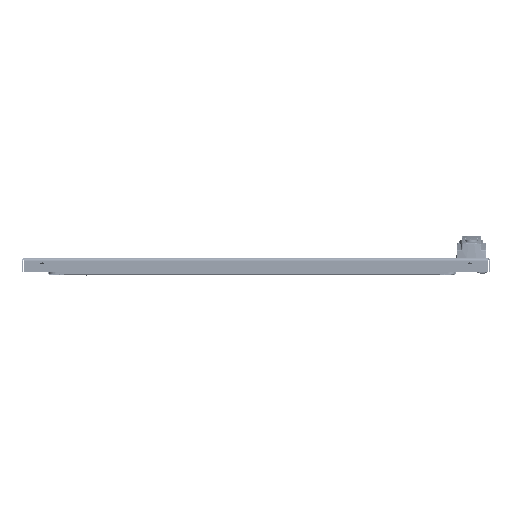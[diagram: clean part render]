
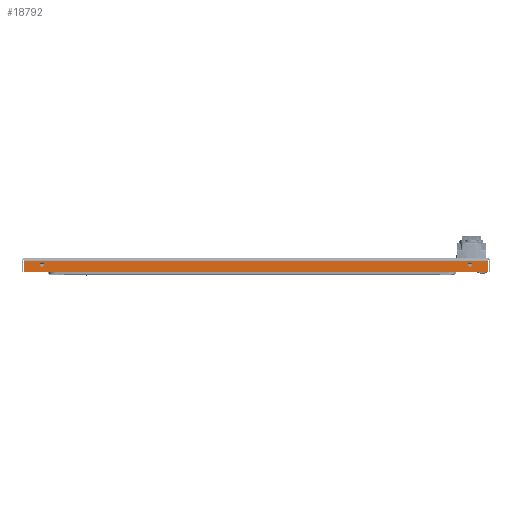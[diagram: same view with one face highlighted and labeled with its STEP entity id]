
A CAD part, front view. The second image highlights one B-rep face of the part: STEP entity #18792.
In plain terms, the highlighted planar face has unit normal (0, -1, 0).
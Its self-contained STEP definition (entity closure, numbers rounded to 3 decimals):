
#11150 = CARTESIAN_POINT ( 'NONE',  ( 11.574, -38.169, -0.063 ) ) ;
#11231 = CARTESIAN_POINT ( 'NONE',  ( -11.573, -38.169, -0.063 ) ) ;
#11501 = CARTESIAN_POINT ( 'NONE',  ( -11.573, -38.169, -0.634 ) ) ;
#12609 = VERTEX_POINT ( 'NONE', #73004 ) ;
#12611 = VERTEX_POINT ( 'NONE', #73002 ) ;
#12647 = VERTEX_POINT ( 'NONE', #72939 ) ;
#12650 = VERTEX_POINT ( 'NONE', #72933 ) ;
#13046 = CARTESIAN_POINT ( 'NONE',  ( 11.574, -38.169, -0.634 ) ) ;
#13663 = AXIS2_PLACEMENT_3D ( 'NONE', #17708, #17684, #17683 ) ;
#13665 = AXIS2_PLACEMENT_3D ( 'NONE', #18258, #18216, #18215 ) ;
#13692 = AXIS2_PLACEMENT_3D ( 'NONE', #20650, #20646, #20644 ) ;
#13693 = AXIS2_PLACEMENT_3D ( 'NONE', #20671, #20662, #20660 ) ;
#17683 = DIRECTION ( 'NONE',  ( 0., 0., -1. ) ) ;
#17684 = DIRECTION ( 'NONE',  ( 0., -1., 0. ) ) ;
#17708 = CARTESIAN_POINT ( 'NONE',  ( -10.649, -38.169, -0.259 ) ) ;
#17731 = DIRECTION ( 'NONE',  ( 0., 0., -1. ) ) ;
#17747 = CARTESIAN_POINT ( 'NONE',  ( 11.574, -38.169, -0.063 ) ) ;
#17801 = DIRECTION ( 'NONE',  ( 0., 0., -1. ) ) ;
#17820 = DIRECTION ( 'NONE',  ( -1., 0., 0. ) ) ;
#17821 = CARTESIAN_POINT ( 'NONE',  ( 11.689, -38.169, -0.634 ) ) ;
#17823 = CARTESIAN_POINT ( 'NONE',  ( -11.573, -38.169, -0.063 ) ) ;
#17868 = DIRECTION ( 'NONE',  ( 1., 0., 0. ) ) ;
#17874 = CARTESIAN_POINT ( 'NONE',  ( 11.689, -38.169, -0.063 ) ) ;
#18215 = DIRECTION ( 'NONE',  ( 0., 0., -1. ) ) ;
#18216 = DIRECTION ( 'NONE',  ( 0., -1., 0. ) ) ;
#18258 = CARTESIAN_POINT ( 'NONE',  ( 10.649, -38.169, -0.259 ) ) ;
#18792 = ADVANCED_FACE ( 'NONE', ( #66447, #66455, #66442 ), #72147, .F. ) ;
#20644 = DIRECTION ( 'NONE',  ( 0., 0., -1. ) ) ;
#20646 = DIRECTION ( 'NONE',  ( 0., -1., 0. ) ) ;
#20650 = CARTESIAN_POINT ( 'NONE',  ( -10.649, -38.169, -0.259 ) ) ;
#20660 = DIRECTION ( 'NONE',  ( 0., 0., -1. ) ) ;
#20662 = DIRECTION ( 'NONE',  ( 0., -1., 0. ) ) ;
#20671 = CARTESIAN_POINT ( 'NONE',  ( 10.649, -38.169, -0.259 ) ) ;
#36072 = CIRCLE ( 'NONE', #13692, 0.109 ) ;
#36078 = CIRCLE ( 'NONE', #13693, 0.109 ) ;
#56932 = EDGE_LOOP ( 'NONE', ( #71166, #71167 ) ) ;
#56953 = EDGE_LOOP ( 'NONE', ( #71168, #71169 ) ) ;
#56957 = EDGE_LOOP ( 'NONE', ( #71170, #71171, #71172, #71173 ) ) ;
#66442 = FACE_OUTER_BOUND ( 'NONE', #56957, .T. ) ;
#66447 = FACE_BOUND ( 'NONE', #56932, .T. ) ;
#66455 = FACE_BOUND ( 'NONE', #56953, .T. ) ;
#70095 = AXIS2_PLACEMENT_3D ( 'NONE', #72148, #72144, #72143 ) ;
#71166 = ORIENTED_EDGE ( 'NONE', *, *, #109608, .F. ) ;
#71167 = ORIENTED_EDGE ( 'NONE', *, *, #109469, .F. ) ;
#71168 = ORIENTED_EDGE ( 'NONE', *, *, #109654, .F. ) ;
#71169 = ORIENTED_EDGE ( 'NONE', *, *, #109471, .F. ) ;
#71170 = ORIENTED_EDGE ( 'NONE', *, *, #109629, .F. ) ;
#71171 = ORIENTED_EDGE ( 'NONE', *, *, #109636, .T. ) ;
#71172 = ORIENTED_EDGE ( 'NONE', *, *, #109634, .F. ) ;
#71173 = ORIENTED_EDGE ( 'NONE', *, *, #109650, .F. ) ;
#72143 = DIRECTION ( 'NONE',  ( 0., 0., 1. ) ) ;
#72144 = DIRECTION ( 'NONE',  ( 0., 1., 0. ) ) ;
#72147 = PLANE ( 'NONE',  #70095 ) ;
#72148 = CARTESIAN_POINT ( 'NONE',  ( 11.689, -38.169, -0.634 ) ) ;
#72933 = CARTESIAN_POINT ( 'NONE',  ( -10.649, -38.169, -0.15 ) ) ;
#72939 = CARTESIAN_POINT ( 'NONE',  ( -10.649, -38.169, -0.369 ) ) ;
#73002 = CARTESIAN_POINT ( 'NONE',  ( 10.649, -38.169, -0.15 ) ) ;
#73004 = CARTESIAN_POINT ( 'NONE',  ( 10.649, -38.169, -0.369 ) ) ;
#78397 = CIRCLE ( 'NONE', #13663, 0.109 ) ;
#78447 = VECTOR ( 'NONE', #17731, 39.37 ) ;
#78518 = LINE ( 'NONE', #17747, #78447 ) ;
#78548 = VECTOR ( 'NONE', #17801, 39.37 ) ;
#78552 = VECTOR ( 'NONE', #17820, 39.37 ) ;
#78562 = LINE ( 'NONE', #17823, #78548 ) ;
#78582 = VECTOR ( 'NONE', #17868, 39.37 ) ;
#78584 = LINE ( 'NONE', #17874, #78582 ) ;
#78646 = LINE ( 'NONE', #17821, #78552 ) ;
#78653 = CIRCLE ( 'NONE', #13665, 0.109 ) ;
#109469 = EDGE_CURVE ( 'NONE', #12611, #12609, #36078, .T. ) ;
#109471 = EDGE_CURVE ( 'NONE', #12650, #12647, #36072, .T. ) ;
#109608 = EDGE_CURVE ( 'NONE', #12609, #12611, #78653, .T. ) ;
#109629 = EDGE_CURVE ( 'NONE', #113776, #113789, #78584, .T. ) ;
#109634 = EDGE_CURVE ( 'NONE', #113644, #113675, #78646, .T. ) ;
#109636 = EDGE_CURVE ( 'NONE', #113776, #113675, #78562, .T. ) ;
#109650 = EDGE_CURVE ( 'NONE', #113789, #113644, #78518, .T. ) ;
#109654 = EDGE_CURVE ( 'NONE', #12647, #12650, #78397, .T. ) ;
#113644 = VERTEX_POINT ( 'NONE', #13046 ) ;
#113675 = VERTEX_POINT ( 'NONE', #11501 ) ;
#113776 = VERTEX_POINT ( 'NONE', #11231 ) ;
#113789 = VERTEX_POINT ( 'NONE', #11150 ) ;
